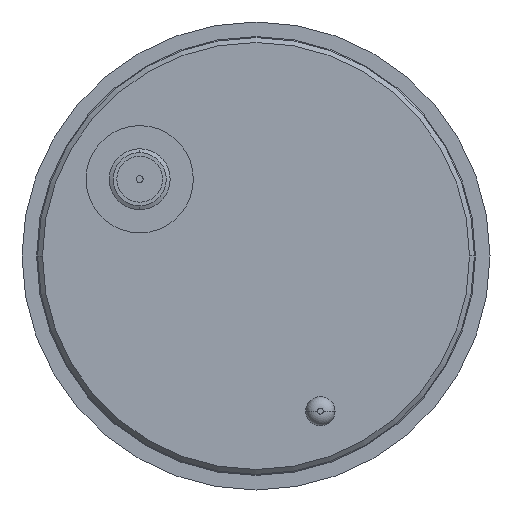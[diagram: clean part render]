
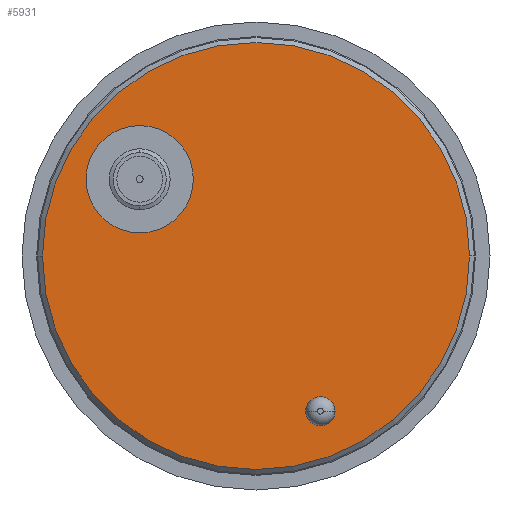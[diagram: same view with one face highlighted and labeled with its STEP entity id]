
A CAD part, front view. The second image highlights one B-rep face of the part: STEP entity #5931.
In plain terms, the highlighted planar face has unit normal (0, -1, 0).
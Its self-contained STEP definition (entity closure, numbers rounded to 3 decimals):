
#1 = PLANE ( 'NONE',  #322 ) ;
#2 = DIRECTION ( 'NONE',  ( -1., 0., 0. ) ) ;
#162 = CARTESIAN_POINT ( 'NONE',  ( 21.9, 0., 0. ) ) ;
#163 = CARTESIAN_POINT ( 'NONE',  ( 5.104, 0., -15.92 ) ) ;
#165 = CARTESIAN_POINT ( 'NONE',  ( -21.9, 0., 0. ) ) ;
#171 = CARTESIAN_POINT ( 'NONE',  ( 8.104, 0., -15.92 ) ) ;
#239 = CARTESIAN_POINT ( 'NONE',  ( -11.929, 0., 13.375 ) ) ;
#248 = CARTESIAN_POINT ( 'NONE',  ( -11.929, 0., 2.375 ) ) ;
#322 = AXIS2_PLACEMENT_3D ( 'NONE', #6858, #6847, #2 ) ;
#591 = DIRECTION ( 'NONE',  ( 0., 0., 1. ) ) ;
#592 = DIRECTION ( 'NONE',  ( 0., 1., 0. ) ) ;
#593 = CARTESIAN_POINT ( 'NONE',  ( -11.929, 0., 7.875 ) ) ;
#609 = DIRECTION ( 'NONE',  ( -1., 0., 0. ) ) ;
#610 = DIRECTION ( 'NONE',  ( 0., 1., 0. ) ) ;
#611 = CARTESIAN_POINT ( 'NONE',  ( 6.604, 0., -15.92 ) ) ;
#624 = DIRECTION ( 'NONE',  ( -1., 0., 0. ) ) ;
#625 = DIRECTION ( 'NONE',  ( 0., 1., 0. ) ) ;
#626 = CARTESIAN_POINT ( 'NONE',  ( 0., 0., 0. ) ) ;
#807 = VERTEX_POINT ( 'NONE', #171 ) ;
#808 = VERTEX_POINT ( 'NONE', #163 ) ;
#813 = VERTEX_POINT ( 'NONE', #248 ) ;
#814 = VERTEX_POINT ( 'NONE', #239 ) ;
#886 = VERTEX_POINT ( 'NONE', #165 ) ;
#895 = VERTEX_POINT ( 'NONE', #162 ) ;
#1571 = CIRCLE ( 'NONE', #1575, 21.9 ) ;
#1575 = AXIS2_PLACEMENT_3D ( 'NONE', #626, #625, #624 ) ;
#1581 = CIRCLE ( 'NONE', #1585, 1.5 ) ;
#1585 = AXIS2_PLACEMENT_3D ( 'NONE', #611, #610, #609 ) ;
#1590 = CIRCLE ( 'NONE', #1594, 5.5 ) ;
#1594 = AXIS2_PLACEMENT_3D ( 'NONE', #593, #592, #591 ) ;
#1782 = EDGE_LOOP ( 'NONE', ( #1957, #1958 ) ) ;
#1808 = EDGE_LOOP ( 'NONE', ( #1955, #1956 ) ) ;
#1809 = EDGE_LOOP ( 'NONE', ( #1953, #1954 ) ) ;
#1953 = ORIENTED_EDGE ( 'NONE', *, *, #6154, .T. ) ;
#1954 = ORIENTED_EDGE ( 'NONE', *, *, #2160, .T. ) ;
#1955 = ORIENTED_EDGE ( 'NONE', *, *, #6047, .F. ) ;
#1956 = ORIENTED_EDGE ( 'NONE', *, *, #2155, .F. ) ;
#1957 = ORIENTED_EDGE ( 'NONE', *, *, #6131, .T. ) ;
#1958 = ORIENTED_EDGE ( 'NONE', *, *, #2166, .T. ) ;
#2155 = EDGE_CURVE ( 'NONE', #895, #886, #1571, .T. ) ;
#2160 = EDGE_CURVE ( 'NONE', #807, #808, #1581, .T. ) ;
#2166 = EDGE_CURVE ( 'NONE', #814, #813, #1590, .T. ) ;
#2527 = CARTESIAN_POINT ( 'NONE',  ( 0., 0., 0. ) ) ;
#2528 = DIRECTION ( 'NONE',  ( 0., 1., 0. ) ) ;
#2529 = DIRECTION ( 'NONE',  ( -1., 0., 0. ) ) ;
#2737 = CARTESIAN_POINT ( 'NONE',  ( -11.929, 0., 7.875 ) ) ;
#2738 = DIRECTION ( 'NONE',  ( 0., 1., 0. ) ) ;
#2739 = DIRECTION ( 'NONE',  ( 0., 0., 1. ) ) ;
#2781 = CARTESIAN_POINT ( 'NONE',  ( 6.604, 0., -15.92 ) ) ;
#2782 = DIRECTION ( 'NONE',  ( 0., 1., 0. ) ) ;
#2783 = DIRECTION ( 'NONE',  ( -1., 0., 0. ) ) ;
#3334 = AXIS2_PLACEMENT_3D ( 'NONE', #2781, #2782, #2783 ) ;
#3344 = CIRCLE ( 'NONE', #3334, 1.5 ) ;
#3371 = AXIS2_PLACEMENT_3D ( 'NONE', #2737, #2738, #2739 ) ;
#3381 = CIRCLE ( 'NONE', #3371, 5.5 ) ;
#3480 = AXIS2_PLACEMENT_3D ( 'NONE', #2527, #2528, #2529 ) ;
#3483 = CIRCLE ( 'NONE', #3480, 21.9 ) ;
#5931 = ADVANCED_FACE ( 'NONE', ( #6857, #6859, #6861 ), #1, .F. ) ;
#6047 = EDGE_CURVE ( 'NONE', #886, #895, #3483, .T. ) ;
#6131 = EDGE_CURVE ( 'NONE', #813, #814, #3381, .T. ) ;
#6154 = EDGE_CURVE ( 'NONE', #808, #807, #3344, .T. ) ;
#6847 = DIRECTION ( 'NONE',  ( 0., 1., 0. ) ) ;
#6857 = FACE_BOUND ( 'NONE', #1809, .T. ) ;
#6858 = CARTESIAN_POINT ( 'NONE',  ( -5.237, 0., 0. ) ) ;
#6859 = FACE_OUTER_BOUND ( 'NONE', #1808, .T. ) ;
#6861 = FACE_BOUND ( 'NONE', #1782, .T. ) ;
